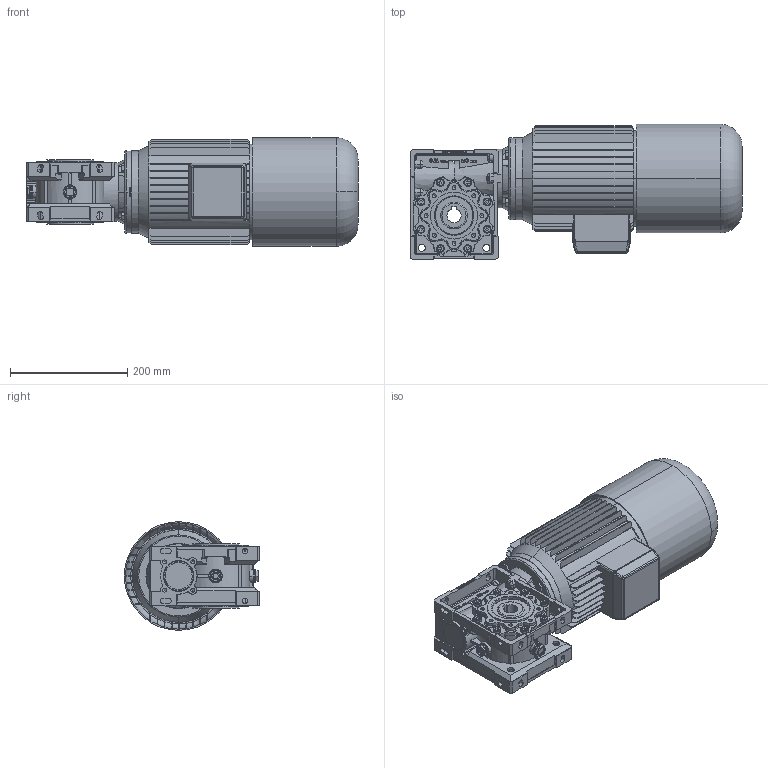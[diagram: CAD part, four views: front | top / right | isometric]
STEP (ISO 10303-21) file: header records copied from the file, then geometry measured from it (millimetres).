
FILE_DESCRIPTION((''),'2;1');
FILE_NAME('D:\_Assiemi MV\_File Sito\63\STP\MV63_B14-90LBRAKE.stp','2005-07-27T10:39:06',('tech2'),(''),'Autodesk Inventor 9','Autodesk Inventor 9','');
FILE_SCHEMA(('AUTOMOTIVE_DESIGN { 1 0 10303 214 1 1 1 1 }'));
Length unit declared in the file: millimetre
Products named in the file (14): MV63_B14-90LBRAKE; 4006301-A0; 4006304-A0; TCCE-8X16-ribassata; 4006308-A0; UNI-ISO 6194-1 (4) Tipo4 45 x  65 x  8; Capp-52-7; Guarnizione-tappo-3-8-gas; Tappo-3-8-gas-nero; DIN 3760  AS  (destra) AS - 35 x 62 x 7 - NBR; motori B14 brake 90L; FM-63-75-D=140; UNI 5739  (Filetto regolare) M8 x 25
Assembly tree (28 placements, depth 3):
  MV63_B14-90LBRAKE
    4006301-A0
    4006304-A0
    TCCE-8X16-ribassata  x8
    4006308-A0
    UNI-ISO 6194-1 (4) Tipo4 45 x  65 x  8  x2
    Capp-52-7
    Guarnizione-tappo-3-8-gas  x3
    Tappo-3-8-gas-nero  x3
    DIN 3760  AS  (destra) AS - 35 x 62 x 7 - NBR
    motori B14 brake 90L
    FM-63-75-D=140
      FM-63-75-D=140
      UNI 5739  (Filetto regolare) M8 x 25  x4
Bounding box: 565.5 x 230.5 x 185 mm (x, y, z)
Volume: 6893795.8 mm3; surface area: 932096.2 mm2
Topology: 28 solids, 29 shells, 4017 faces, 10368 edges, 6516 vertices
Faces by surface type: plane 1575, cylinder 1224, bspline 936, cone 180, torus 98, sphere 4
Entity records: 133039 total; most frequent: CARTESIAN_POINT 46123, ORIENTED_EDGE 18824, DIRECTION 17202, EDGE_CURVE 9412, AXIS2_PLACEMENT_3D 6023, VERTEX_POINT 6014, VECTOR 5156, LINE 5156
